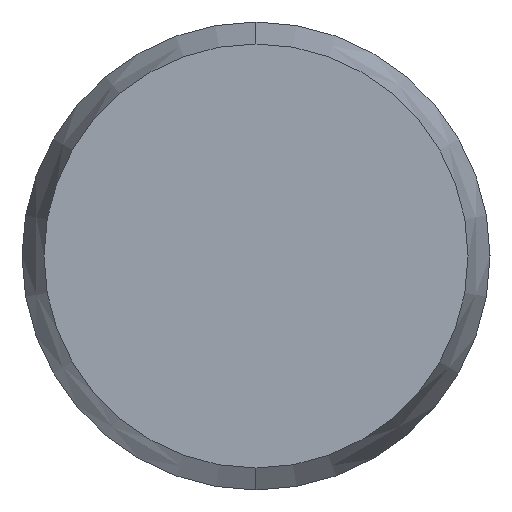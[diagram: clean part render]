
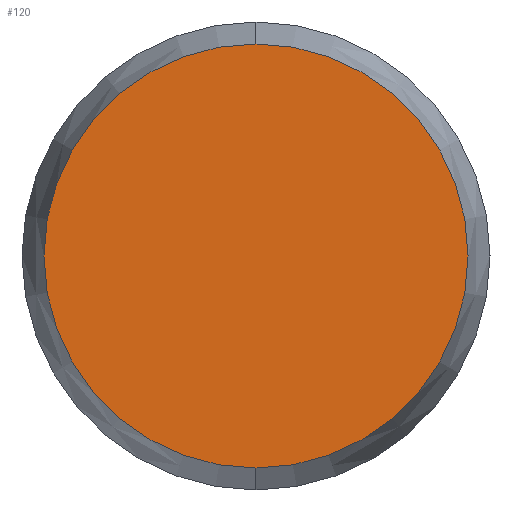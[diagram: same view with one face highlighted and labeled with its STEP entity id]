
A CAD part, left-side view. The second image highlights one B-rep face of the part: STEP entity #120.
In plain terms, the highlighted planar face has unit normal (-1, 0, 0).
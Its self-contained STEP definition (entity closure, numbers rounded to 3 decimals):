
#92 = VERTEX_POINT ( 'NONE', #170 ) ;
#109 = EDGE_CURVE ( 'NONE', #110, #92, #255, .T. ) ;
#110 = VERTEX_POINT ( 'NONE', #250 ) ;
#117 = EDGE_CURVE ( 'NONE', #92, #110, #209, .T. ) ;
#120 = ADVANCED_FACE ( 'NONE', ( #204 ), #203, .F. ) ;
#134 = EDGE_LOOP ( 'NONE', ( #135, #136 ) ) ;
#135 = ORIENTED_EDGE ( 'NONE', *, *, #109, .F. ) ;
#136 = ORIENTED_EDGE ( 'NONE', *, *, #117, .F. ) ;
#170 = CARTESIAN_POINT ( 'NONE',  ( -20., 0., -1.812 ) ) ;
#198 = DIRECTION ( 'NONE',  ( 0., 0., -1. ) ) ;
#199 = DIRECTION ( 'NONE',  ( 1., 0., 0. ) ) ;
#200 = CARTESIAN_POINT ( 'NONE',  ( -20., 0., 0. ) ) ;
#202 = AXIS2_PLACEMENT_3D ( 'NONE', #200, #199, #198 ) ;
#203 = PLANE ( 'NONE',  #202 ) ;
#204 = FACE_OUTER_BOUND ( 'NONE', #134, .T. ) ;
#205 = DIRECTION ( 'NONE',  ( 0., 0., -1. ) ) ;
#206 = DIRECTION ( 'NONE',  ( 1., 0., 0. ) ) ;
#207 = CARTESIAN_POINT ( 'NONE',  ( -20., 0., 0. ) ) ;
#208 = AXIS2_PLACEMENT_3D ( 'NONE', #207, #206, #205 ) ;
#209 = CIRCLE ( 'NONE', #208, 1.812 ) ;
#250 = CARTESIAN_POINT ( 'NONE',  ( -20., 0., 1.812 ) ) ;
#251 = DIRECTION ( 'NONE',  ( 0., 0., -1. ) ) ;
#252 = DIRECTION ( 'NONE',  ( 1., 0., 0. ) ) ;
#253 = CARTESIAN_POINT ( 'NONE',  ( -20., 0., 0. ) ) ;
#254 = AXIS2_PLACEMENT_3D ( 'NONE', #253, #252, #251 ) ;
#255 = CIRCLE ( 'NONE', #254, 1.812 ) ;
